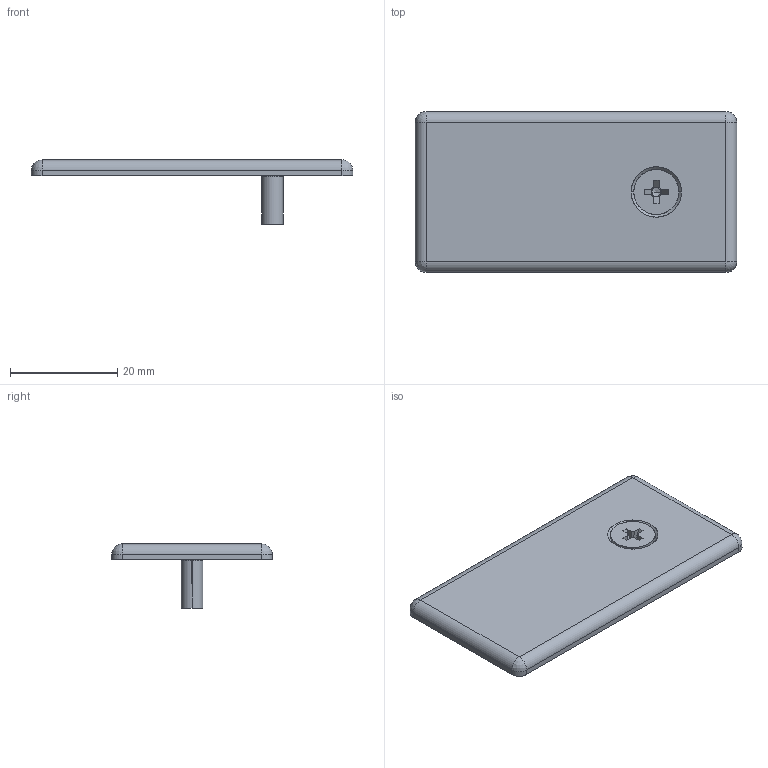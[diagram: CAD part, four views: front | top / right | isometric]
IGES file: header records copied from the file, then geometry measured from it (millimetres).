
Start section: SolidWorks IGES file using analytic representation for surfaces
Global section: file name: C:\Documents and Settings\Administrator\デスクトップ\指定保存後4回目\SolidWorks\SF\SF30\Parts\SFK-04L.IGS; native system: SolidWorks 2006 by SolidWorks Corporation; preprocessor: SolidWorks 2006 by SolidWorks Corporation; author: Administrator; date: 061215.160606; units: millimetre
Bounding box: 60 x 30 x 12 mm (x, y, z)
Surface area: 4251.8 mm2 (no closed solid volume)
Topology: 0 solids, 0 shells, 54 faces, 408 edges, 404 vertices
Faces by surface type: revolution 28, bspline 26
